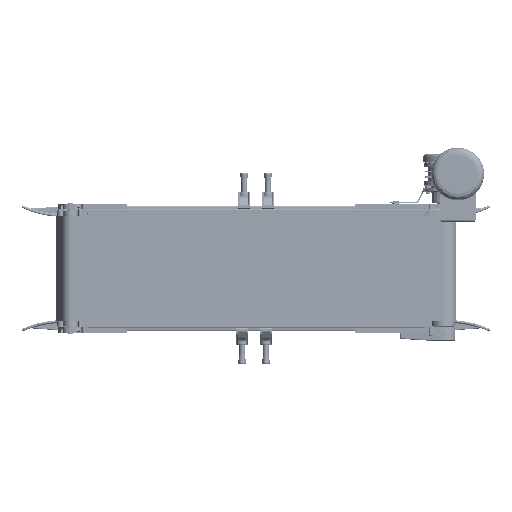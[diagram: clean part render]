
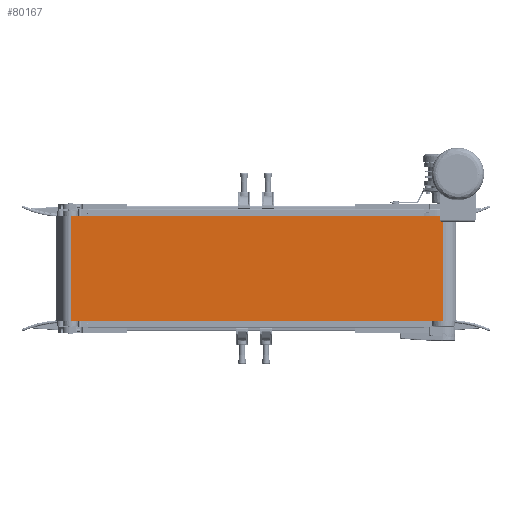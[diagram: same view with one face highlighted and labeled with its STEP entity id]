
A CAD part, front view. The second image highlights one B-rep face of the part: STEP entity #80167.
In plain terms, the highlighted planar face has unit normal (0, -1, 0).
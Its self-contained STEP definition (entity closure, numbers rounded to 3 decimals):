
#7325 = CARTESIAN_POINT ( 'NONE',  ( 392., -27., 109.5 ) ) ;
#8528 = VERTEX_POINT ( 'NONE', #155793 ) ;
#11740 = VERTEX_POINT ( 'NONE', #56343 ) ;
#11839 = DIRECTION ( 'NONE',  ( -1., 0., 0. ) ) ;
#14655 = LINE ( 'NONE', #125955, #35328 ) ;
#15454 = CARTESIAN_POINT ( 'NONE',  ( -388., -27., -109.5 ) ) ;
#16631 = ORIENTED_EDGE ( 'NONE', *, *, #43316, .F. ) ;
#32910 = LINE ( 'NONE', #7325, #70492 ) ;
#35328 = VECTOR ( 'NONE', #149157, 1000. ) ;
#36554 = EDGE_LOOP ( 'NONE', ( #119621, #16631, #123483, #155905 ) ) ;
#36928 = AXIS2_PLACEMENT_3D ( 'NONE', #107185, #59824, #11839 ) ;
#39466 = DIRECTION ( 'NONE',  ( 1., 0., 0. ) ) ;
#43316 = EDGE_CURVE ( 'NONE', #71446, #8528, #32910, .T. ) ;
#46986 = DIRECTION ( 'NONE',  ( 1., 0., 0. ) ) ;
#56343 = CARTESIAN_POINT ( 'NONE',  ( -388., -27., -109.5 ) ) ;
#59824 = DIRECTION ( 'NONE',  ( 0., 1., 0. ) ) ;
#70492 = VECTOR ( 'NONE', #156153, 1000. ) ;
#71446 = VERTEX_POINT ( 'NONE', #94494 ) ;
#74232 = FACE_OUTER_BOUND ( 'NONE', #36554, .T. ) ;
#80167 = ADVANCED_FACE ( 'NONE', ( #74232 ), #95149, .F. ) ;
#89097 = VECTOR ( 'NONE', #39466, 1000. ) ;
#94494 = CARTESIAN_POINT ( 'NONE',  ( 392., -27., 109.5 ) ) ;
#95149 = PLANE ( 'NONE',  #36928 ) ;
#99838 = VECTOR ( 'NONE', #46986, 1000. ) ;
#107108 = LINE ( 'NONE', #107894, #99838 ) ;
#107185 = CARTESIAN_POINT ( 'NONE',  ( -388., -27., 109.5 ) ) ;
#107894 = CARTESIAN_POINT ( 'NONE',  ( -388., -27., 109.5 ) ) ;
#111575 = LINE ( 'NONE', #15454, #89097 ) ;
#119621 = ORIENTED_EDGE ( 'NONE', *, *, #141008, .T. ) ;
#123483 = ORIENTED_EDGE ( 'NONE', *, *, #124348, .F. ) ;
#124348 = EDGE_CURVE ( 'NONE', #125302, #71446, #107108, .T. ) ;
#125302 = VERTEX_POINT ( 'NONE', #146647 ) ;
#125955 = CARTESIAN_POINT ( 'NONE',  ( -388., -27., 109.5 ) ) ;
#140994 = EDGE_CURVE ( 'NONE', #125302, #11740, #14655, .T. ) ;
#141008 = EDGE_CURVE ( 'NONE', #11740, #8528, #111575, .T. ) ;
#146647 = CARTESIAN_POINT ( 'NONE',  ( -388., -27., 109.5 ) ) ;
#149157 = DIRECTION ( 'NONE',  ( 0., 0., -1. ) ) ;
#155793 = CARTESIAN_POINT ( 'NONE',  ( 392., -27., -109.5 ) ) ;
#155905 = ORIENTED_EDGE ( 'NONE', *, *, #140994, .T. ) ;
#156153 = DIRECTION ( 'NONE',  ( 0., 0., -1. ) ) ;
